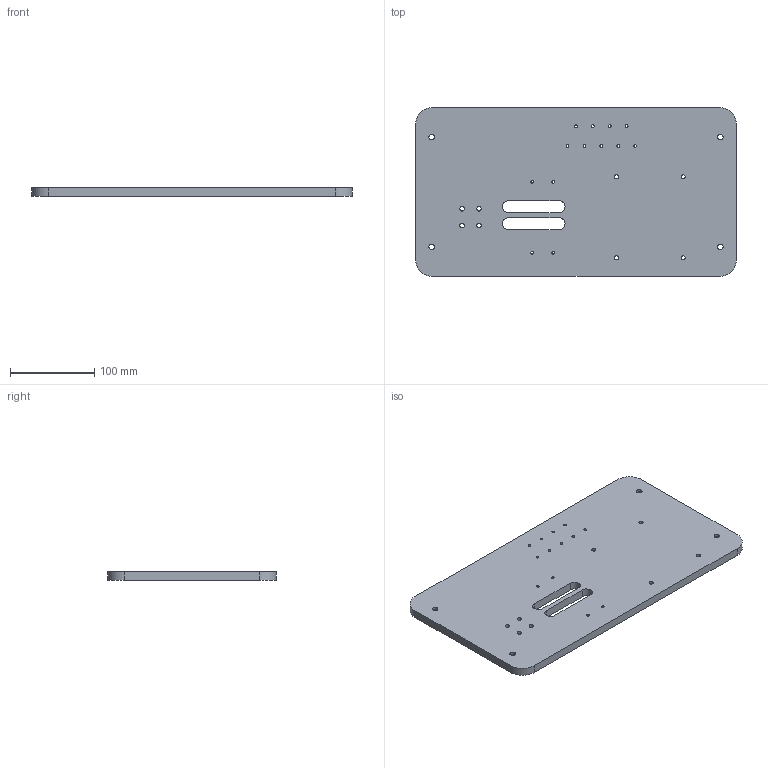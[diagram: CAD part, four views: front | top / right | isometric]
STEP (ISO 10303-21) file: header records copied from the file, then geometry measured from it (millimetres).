
FILE_DESCRIPTION (( 'STEP AP214' ), '1' );
FILE_NAME ('GZ28.02_V1µ××ù.STEP', '2021-04-11T13:42:03', ( 'hp' ), ( '' ), 'SwSTEP 2.0', 'SolidWorks 2017', '' );
FILE_SCHEMA (( 'AUTOMOTIVE_DESIGN' ));
Length unit declared in the file: millimetre
Products named in the file (1): GZ28.02_V1菁釱
Bounding box: 380 x 200 x 10 mm (x, y, z)
Volume: 729661.9 mm3; surface area: 165207.1 mm2
Topology: 1 solids, 1 shells, 94 faces, 252 edges, 168 vertices
Faces by surface type: cylinder 76, plane 18
Entity records: 3544 total; most frequent: DIRECTION 594, CARTESIAN_POINT 515, ORIENTED_EDGE 504, EDGE_CURVE 252, AXIS2_PLACEMENT_3D 247, VERTEX_POINT 168, EDGE_LOOP 156, CIRCLE 152
